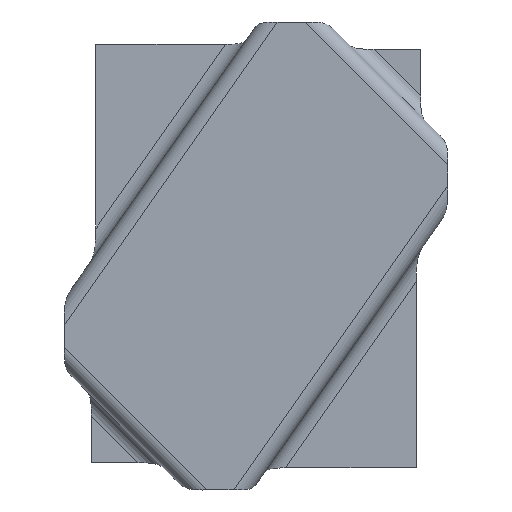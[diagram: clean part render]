
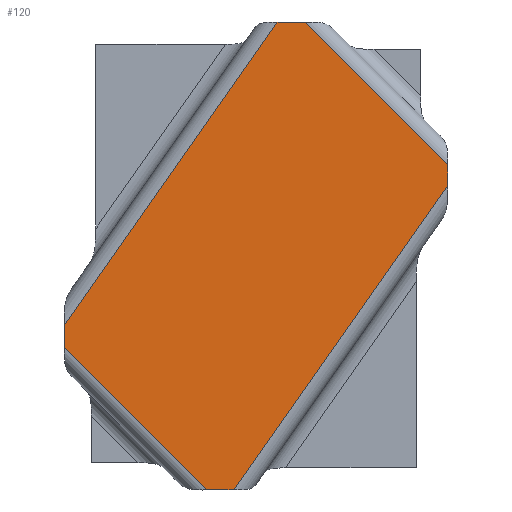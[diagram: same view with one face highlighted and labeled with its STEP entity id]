
A CAD part, top view. The second image highlights one B-rep face of the part: STEP entity #120.
In plain terms, the highlighted planar face has unit normal (0, 0, -1).
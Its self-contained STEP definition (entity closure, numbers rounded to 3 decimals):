
#53=CARTESIAN_POINT('Axis2P3D Location',(-52.414,36.808,64.547)) ;
#59=CARTESIAN_POINT('Control Point',(-52.414,75.927,64.547)) ;
#60=CARTESIAN_POINT('Control Point',(-1.934,147.808,64.547)) ;
#61=CARTESIAN_POINT('Vertex',(-52.414,75.927,64.547)) ;
#63=CARTESIAN_POINT('Vertex',(-1.934,147.808,64.547)) ;
#66=CARTESIAN_POINT('Line Origine',(-6.914,147.808,64.547)) ;
#70=CARTESIAN_POINT('Vertex',(4.76,147.808,64.547)) ;
#74=CARTESIAN_POINT('Control Point',(4.76,147.808,64.547)) ;
#75=CARTESIAN_POINT('Control Point',(38.586,113.983,64.547)) ;
#76=CARTESIAN_POINT('Vertex',(38.586,113.983,64.547)) ;
#79=CARTESIAN_POINT('Line Origine',(38.586,92.308,64.547)) ;
#83=CARTESIAN_POINT('Vertex',(38.586,109.009,64.547)) ;
#87=CARTESIAN_POINT('Control Point',(38.586,109.009,64.547)) ;
#88=CARTESIAN_POINT('Control Point',(-12.118,36.808,64.547)) ;
#89=CARTESIAN_POINT('Vertex',(-12.118,36.808,64.547)) ;
#92=CARTESIAN_POINT('Line Origine',(-6.914,36.808,64.547)) ;
#96=CARTESIAN_POINT('Vertex',(-18.588,36.808,64.547)) ;
#100=CARTESIAN_POINT('Control Point',(-52.414,70.634,64.547)) ;
#101=CARTESIAN_POINT('Control Point',(-18.588,36.808,64.547)) ;
#102=CARTESIAN_POINT('Vertex',(-52.414,70.634,64.547)) ;
#105=CARTESIAN_POINT('Line Origine',(-52.414,92.308,64.547)) ;
#54=DIRECTION('Axis2P3D Direction',(0.,0.,1.)) ;
#55=DIRECTION('Axis2P3D XDirection',(1.,0.,0.)) ;
#67=DIRECTION('Vector Direction',(1.,0.,0.)) ;
#80=DIRECTION('Vector Direction',(0.,1.,0.)) ;
#93=DIRECTION('Vector Direction',(1.,0.,0.)) ;
#106=DIRECTION('Vector Direction',(0.,1.,0.)) ;
#56=AXIS2_PLACEMENT_3D('Plane Axis2P3D',#53,#54,#55) ;
#111=ORIENTED_EDGE('',*,*,#65,.T.) ;
#112=ORIENTED_EDGE('',*,*,#72,.T.) ;
#113=ORIENTED_EDGE('',*,*,#78,.T.) ;
#114=ORIENTED_EDGE('',*,*,#85,.T.) ;
#115=ORIENTED_EDGE('',*,*,#91,.T.) ;
#116=ORIENTED_EDGE('',*,*,#98,.T.) ;
#117=ORIENTED_EDGE('',*,*,#104,.F.) ;
#118=ORIENTED_EDGE('',*,*,#109,.T.) ;
#68=VECTOR('Line Direction',#67,1.) ;
#81=VECTOR('Line Direction',#80,1.) ;
#94=VECTOR('Line Direction',#93,1.) ;
#107=VECTOR('Line Direction',#106,1.) ;
#120=ADVANCED_FACE('Offset.1',(#119),#57,.F.) ;
#58=B_SPLINE_CURVE_WITH_KNOTS('',1,(#59,#60),.UNSPECIFIED.,.F.,.U.,(2,2),(-43.918,43.918),.UNSPECIFIED.) ;
#73=B_SPLINE_CURVE_WITH_KNOTS('',1,(#74,#75),.UNSPECIFIED.,.F.,.U.,(2,2),(-23.919,23.919),.UNSPECIFIED.) ;
#86=B_SPLINE_CURVE_WITH_KNOTS('',1,(#87,#88),.UNSPECIFIED.,.F.,.U.,(2,2),(-44.113,44.113),.UNSPECIFIED.) ;
#99=B_SPLINE_CURVE_WITH_KNOTS('',1,(#100,#101),.UNSPECIFIED.,.F.,.U.,(2,2),(-23.919,23.919),.UNSPECIFIED.) ;
#65=EDGE_CURVE('',#62,#64,#58,.T.) ;
#72=EDGE_CURVE('',#64,#71,#69,.T.) ;
#78=EDGE_CURVE('',#71,#77,#73,.T.) ;
#85=EDGE_CURVE('',#77,#84,#82,.F.) ;
#91=EDGE_CURVE('',#84,#90,#86,.T.) ;
#98=EDGE_CURVE('',#90,#97,#95,.F.) ;
#104=EDGE_CURVE('',#103,#97,#99,.T.) ;
#109=EDGE_CURVE('',#103,#62,#108,.T.) ;
#110=EDGE_LOOP('',(#111,#112,#113,#114,#115,#116,#117,#118)) ;
#119=FACE_OUTER_BOUND('',#110,.T.) ;
#69=LINE('Line',#66,#68) ;
#82=LINE('Line',#79,#81) ;
#95=LINE('Line',#92,#94) ;
#108=LINE('Line',#105,#107) ;
#57=PLANE('',#56) ;
#62=VERTEX_POINT('',#61) ;
#64=VERTEX_POINT('',#63) ;
#71=VERTEX_POINT('',#70) ;
#77=VERTEX_POINT('',#76) ;
#84=VERTEX_POINT('',#83) ;
#90=VERTEX_POINT('',#89) ;
#97=VERTEX_POINT('',#96) ;
#103=VERTEX_POINT('',#102) ;
